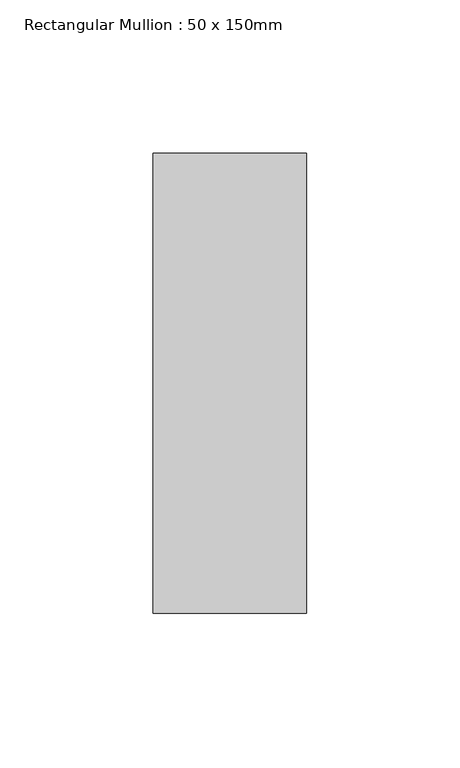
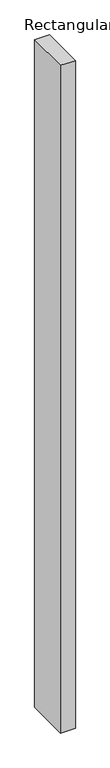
"""IFC4 building model written with IfcOpenShell, lengths in millimetres: member geometry, Rectangular Mullion : 50 x 150mm."""

from ifc_helpers import new_model, si_unit, frame, origin, place, context, project, spatial, polyline, outline, extrude, source, transform, mapped, element, save


def rectangular_mullion_50_x_150mm_15da01e7(model_context):
    return source(origin(), model_context, "Body", "SweptSolid", [
        extrude(outline(polyline([(25.0, 75.0), (25.0, -75.0), (-25.0, -75.0), (-25.0, 75.0), (25.0, 75.0)])), frame((0.0, 0.0, -2370.5969099), z_axis=(0.0, 0.0, 1.0), x_axis=(1.0, 0.0, 0.0)), (0.0, 0.0, 1.0), 2370.5969099),
    ])


if __name__ == "__main__":
    model = new_model("IFC4")
    model_context = context("Model", 3, world=origin())
    ifc_project = project(units=[si_unit("LENGTHUNIT", "METRE", prefix="MILLI")], contexts=[model_context])
    site = spatial("IfcSite", under=ifc_project)
    building = spatial("IfcBuilding", under=site)
    placement = place(None, origin())
    rectangular_mullion_50_x_150mm_shape = rectangular_mullion_50_x_150mm_15da01e7(model_context)
    element("IfcMember", 1, ObjectType="Rectangular Mullion : 50 x 150mm", at=placement, inside=building, context=model_context, shape_type="MappedRepresentation", body=[
        mapped(rectangular_mullion_50_x_150mm_shape, transform((0.0, 0.0, 0.0), x_axis=(1.0, 0.0, 0.0), y_axis=(0.0, 1.0, 0.0), z_axis=(0.0, 0.0, 1.0))),
    ])
    save(model, "model.ifc")
